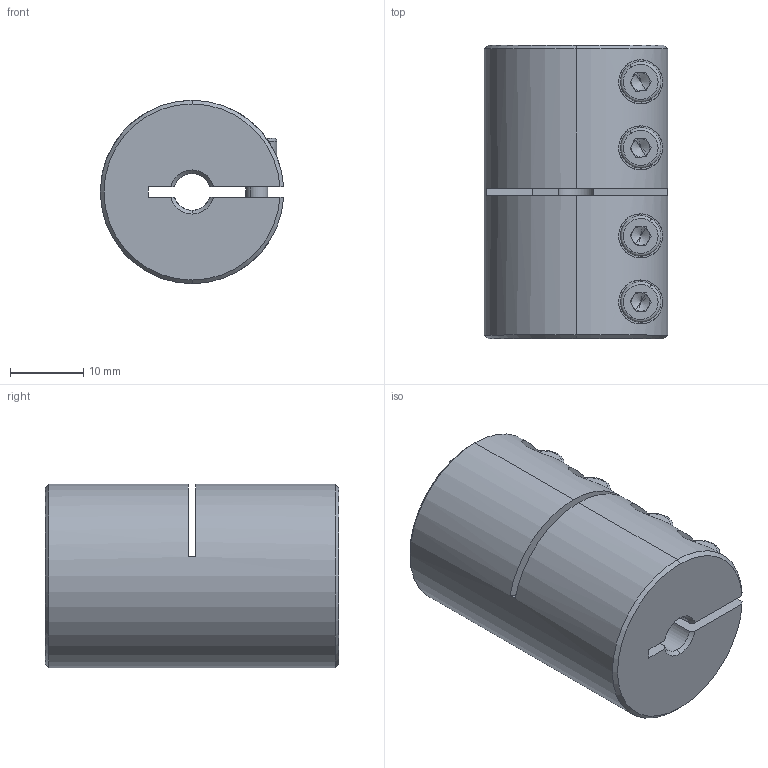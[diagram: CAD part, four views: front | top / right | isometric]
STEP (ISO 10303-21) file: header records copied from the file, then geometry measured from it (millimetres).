
FILE_DESCRIPTION (( 'STEP AP214' ), '1' );
FILE_NAME ('LL-B-D25L40-5-5½¨Ä£.STEP', '2022-07-21T05:00:34', ( '' ), ( '' ), 'SwSTEP 2.0', 'SolidWorks 2022', '' );
FILE_SCHEMA (( 'AUTOMOTIVE_DESIGN' ));
Length unit declared in the file: millimetre
Products named in the file (1): LL-B-D25L40-5-5膘耀
Bounding box: 24.98 x 40 x 25 mm (x, y, z)
Volume: 17496.4 mm3; surface area: 7056.9 mm2
Topology: 1 solids, 1 shells, 173 faces, 440 edges, 277 vertices
Faces by surface type: plane 83, cylinder 62, cone 20, torus 8
Entity records: 5667 total; most frequent: CARTESIAN_POINT 1407, DIRECTION 915, ORIENTED_EDGE 864, EDGE_CURVE 432, AXIS2_PLACEMENT_3D 353, VERTEX_POINT 277, VECTOR 209, LINE 209
